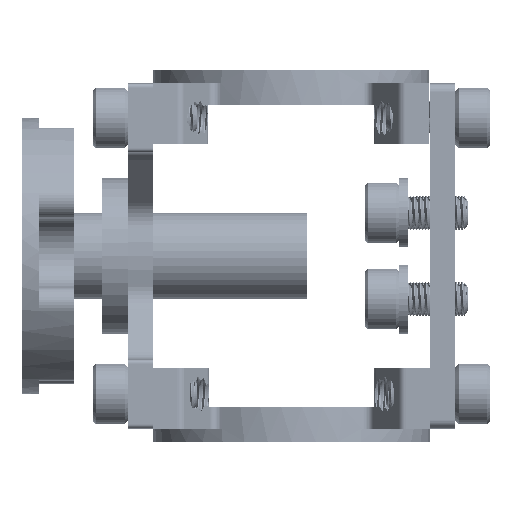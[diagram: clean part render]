
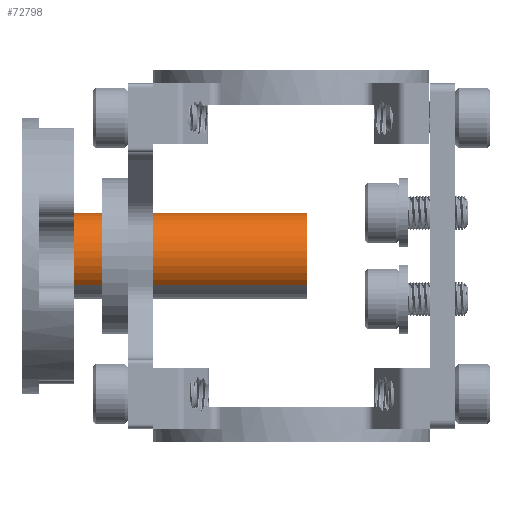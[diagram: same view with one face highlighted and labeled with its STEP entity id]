
A CAD part, left-side view. The second image highlights one B-rep face of the part: STEP entity #72798.
In plain terms, the highlighted cylindrical face has radius 5 mm (diameter 10 mm), a partial arc.
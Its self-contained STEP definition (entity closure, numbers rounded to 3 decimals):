
#4313 = DIRECTION ( 'NONE',  ( 0., 0., 1. ) ) ;
#9921 = DIRECTION ( 'NONE',  ( 0., -1., 0. ) ) ;
#13736 = DIRECTION ( 'NONE',  ( 0., 0., 1. ) ) ;
#14612 = ORIENTED_EDGE ( 'NONE', *, *, #98356, .T. ) ;
#17098 = CARTESIAN_POINT ( 'NONE',  ( 0., 33., 0. ) ) ;
#17838 = LINE ( 'NONE', #67185, #58638 ) ;
#20894 = CARTESIAN_POINT ( 'NONE',  ( 0., 6., 0. ) ) ;
#21009 = CARTESIAN_POINT ( 'NONE',  ( 0., 33., 0. ) ) ;
#23311 = VERTEX_POINT ( 'NONE', #85005 ) ;
#27479 = EDGE_LOOP ( 'NONE', ( #40282, #102065, #14612, #61925 ) ) ;
#29951 = AXIS2_PLACEMENT_3D ( 'NONE', #21009, #53753, #4313 ) ;
#34147 = DIRECTION ( 'NONE',  ( 0., -1., 0. ) ) ;
#36399 = CARTESIAN_POINT ( 'NONE',  ( 0., 33., -5. ) ) ;
#37225 = DIRECTION ( 'NONE',  ( 0., 1., 0. ) ) ;
#40282 = ORIENTED_EDGE ( 'NONE', *, *, #91445, .F. ) ;
#42955 = VERTEX_POINT ( 'NONE', #47736 ) ;
#44066 = CARTESIAN_POINT ( 'NONE',  ( 0., 6., -5. ) ) ;
#47736 = CARTESIAN_POINT ( 'NONE',  ( 0., 6., 5. ) ) ;
#53753 = DIRECTION ( 'NONE',  ( 0., 1., 0. ) ) ;
#55112 = EDGE_CURVE ( 'NONE', #74332, #42955, #55445, .T. ) ;
#55445 = CIRCLE ( 'NONE', #69735, 5. ) ;
#55887 = CYLINDRICAL_SURFACE ( 'NONE', #95873, 5. ) ;
#58638 = VECTOR ( 'NONE', #9921, 1000. ) ;
#60313 = CARTESIAN_POINT ( 'NONE',  ( 0., 33., -5. ) ) ;
#61925 = ORIENTED_EDGE ( 'NONE', *, *, #55112, .T. ) ;
#67185 = CARTESIAN_POINT ( 'NONE',  ( 0., 33., 5. ) ) ;
#69735 = AXIS2_PLACEMENT_3D ( 'NONE', #20894, #37225, #13736 ) ;
#72798 = ADVANCED_FACE ( 'NONE', ( #88946 ), #55887, .T. ) ;
#74332 = VERTEX_POINT ( 'NONE', #44066 ) ;
#75152 = DIRECTION ( 'NONE',  ( 0., 0., -1. ) ) ;
#76678 = DIRECTION ( 'NONE',  ( 0., -1., 0. ) ) ;
#77157 = VECTOR ( 'NONE', #76678, 1000. ) ;
#82242 = LINE ( 'NONE', #60313, #77157 ) ;
#85005 = CARTESIAN_POINT ( 'NONE',  ( 0., 33., 5. ) ) ;
#88946 = FACE_OUTER_BOUND ( 'NONE', #27479, .T. ) ;
#91445 = EDGE_CURVE ( 'NONE', #23311, #42955, #17838, .T. ) ;
#95873 = AXIS2_PLACEMENT_3D ( 'NONE', #17098, #34147, #75152 ) ;
#98235 = VERTEX_POINT ( 'NONE', #36399 ) ;
#98356 = EDGE_CURVE ( 'NONE', #98235, #74332, #82242, .T. ) ;
#101229 = CIRCLE ( 'NONE', #29951, 5. ) ;
#101310 = EDGE_CURVE ( 'NONE', #98235, #23311, #101229, .T. ) ;
#102065 = ORIENTED_EDGE ( 'NONE', *, *, #101310, .F. ) ;
